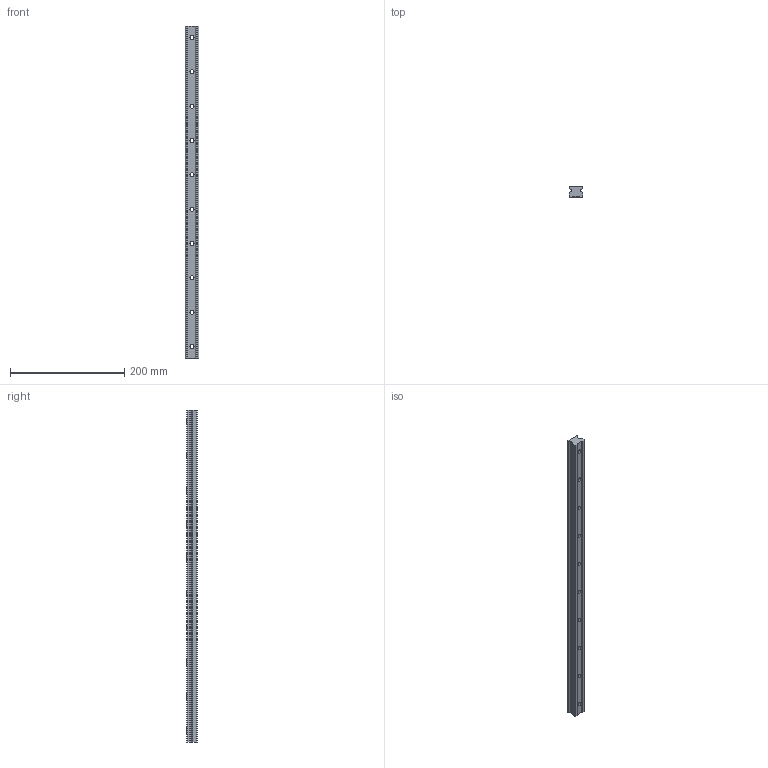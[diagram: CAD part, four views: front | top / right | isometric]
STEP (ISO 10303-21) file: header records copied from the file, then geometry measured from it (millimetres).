
FILE_DESCRIPTION (( 'STEP AP203' ), '1' );
FILE_NAME ('L1016.BL25-0580.step', '2019-06-12T12:05:07', ( '' ), ( '' ), 'SwSTEP 2.0', 'SolidWorks 2017', '' );
FILE_SCHEMA (( 'CONFIG_CONTROL_DESIGN' ));
Length unit declared in the file: millimetre
Products named in the file (1): L1016.BL25-0580
Bounding box: 23 x 19.2 x 580 mm (x, y, z)
Volume: 213416.3 mm3; surface area: 55617.9 mm2
Topology: 1 solids, 1 shells, 76 faces, 192 edges, 128 vertices
Faces by surface type: cylinder 44, plane 32
Entity records: 2441 total; most frequent: DIRECTION 434, CARTESIAN_POINT 397, ORIENTED_EDGE 384, EDGE_CURVE 192, AXIS2_PLACEMENT_3D 165, VERTEX_POINT 128, EDGE_LOOP 106, LINE 104
